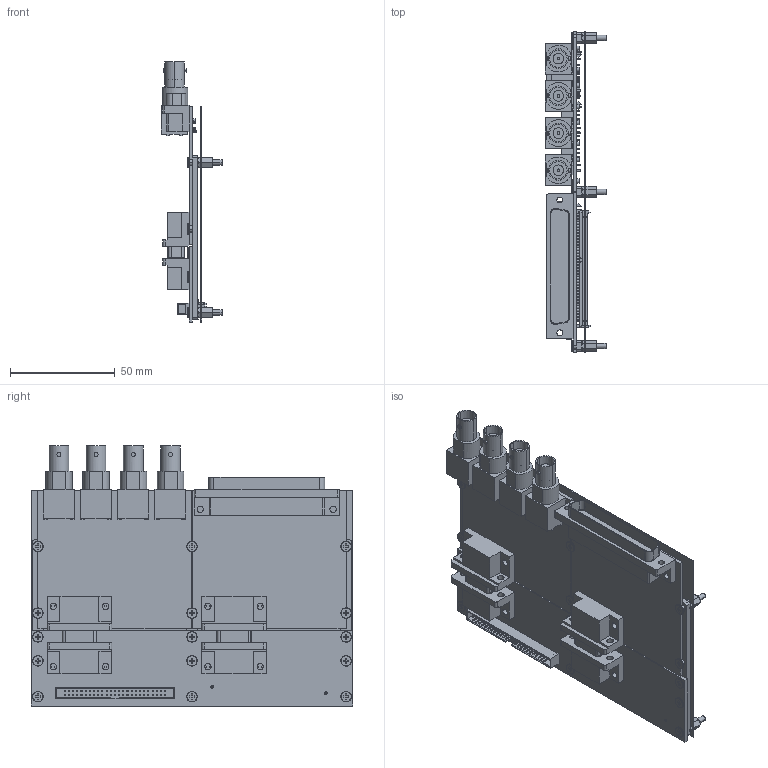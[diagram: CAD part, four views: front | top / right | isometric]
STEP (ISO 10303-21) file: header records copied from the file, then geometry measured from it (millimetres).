
FILE_DESCRIPTION((''),'2;1');
FILE_NAME('CU_NI-9697','2015-07-01T',('tsim'),(''),'PRO/ENGINEER BY PARAMETRIC TECHNOLOGY CORPORATION, 2014000','PRO/ENGINEER BY PARAMETRIC TECHNOLOGY CORPORATION, 2014000','');
FILE_SCHEMA(('CONFIG_CONTROL_DESIGN'));
Products named in the file (1): CU_NI-9697
Bounding box: 29.17 x 153.67 x 124.26 mm (x, y, z)
Volume: 81209.3 mm3; surface area: 88426.8 mm2
Topology: 17 solids, 25 shells, 3314 faces, 8106 edges, 5191 vertices
Faces by surface type: plane 2071, cylinder 1076, cone 95, torus 66, bspline 4, sphere 2
Entity records: 104113 total; most frequent: CARTESIAN_POINT 25596, ORIENTED_EDGE 16208, DIRECTION 15704, EDGE_CURVE 8104, VECTOR 5932, LINE 5932, VERTEX_POINT 5191, AXIS2_PLACEMENT_3D 4886
